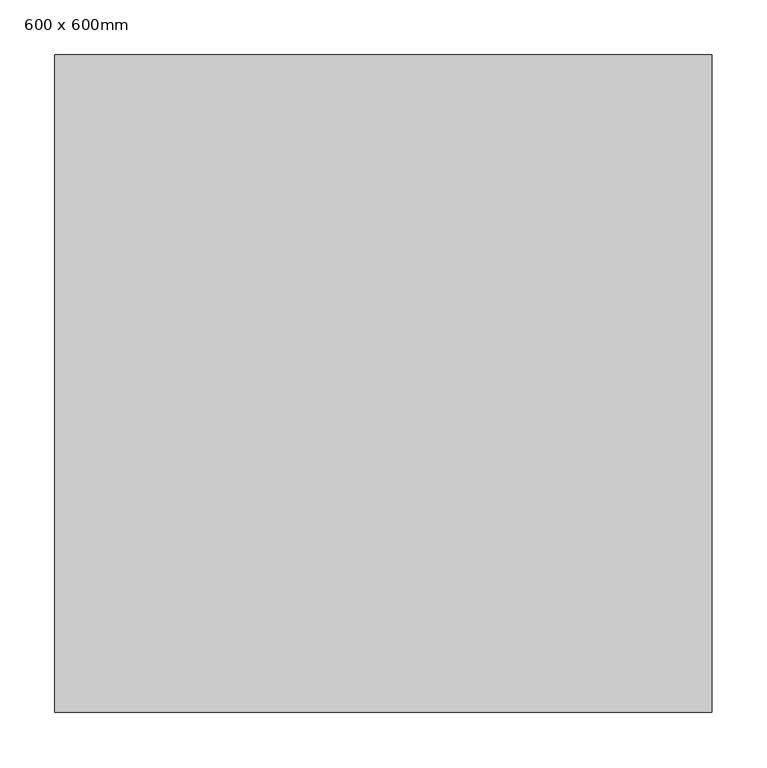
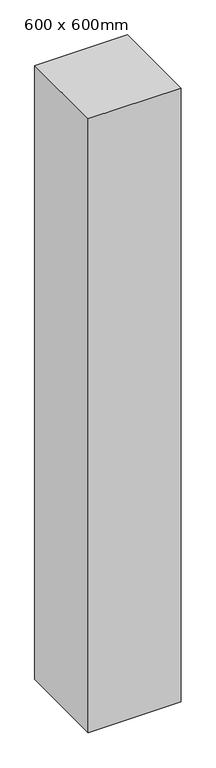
"""IFC4 building model written with IfcOpenShell, lengths in millimetres: column geometry, 矩形柱 : 600 x 600mm."""

from ifc_helpers import new_model, si_unit, frame, origin, place, context, project, spatial, polyline, outline, extrude, source, transform, mapped, element, save


def column_600_x_600mm_547d8ad0(model_context):
    return source(origin(), model_context, "Body", "SweptSolid", [
        extrude(outline(polyline([(300.0, 300.0), (300.0, -300.0), (-300.0, -300.0), (-300.0, 300.0), (300.0, 300.0)])), frame((0.0, 0.0, 4200.0), z_axis=(0.0, 0.0, 1.0), x_axis=(1.0, 0.0, 0.0)), (0.0, 0.0, 1.0), 4200.0),
    ])


if __name__ == "__main__":
    model = new_model("IFC4")
    model_context = context("Model", 3, world=origin())
    ifc_project = project(units=[si_unit("LENGTHUNIT", "METRE", prefix="MILLI")], contexts=[model_context])
    site = spatial("IfcSite", under=ifc_project)
    building = spatial("IfcBuilding", under=site)
    placement = place(None, origin())
    column_600_x_600mm_shape = column_600_x_600mm_547d8ad0(model_context)
    element("IfcColumn", 1, ObjectType="矩形柱 : 600 x 600mm", at=placement, inside=building, context=model_context, shape_type="MappedRepresentation", body=[
        mapped(column_600_x_600mm_shape, transform((0.0, 0.0, 0.0), x_axis=(1.0, 0.0, 0.0), y_axis=(0.0, 1.0, 0.0), z_axis=(0.0, 0.0, 1.0))),
    ])
    save(model, "model.ifc")
